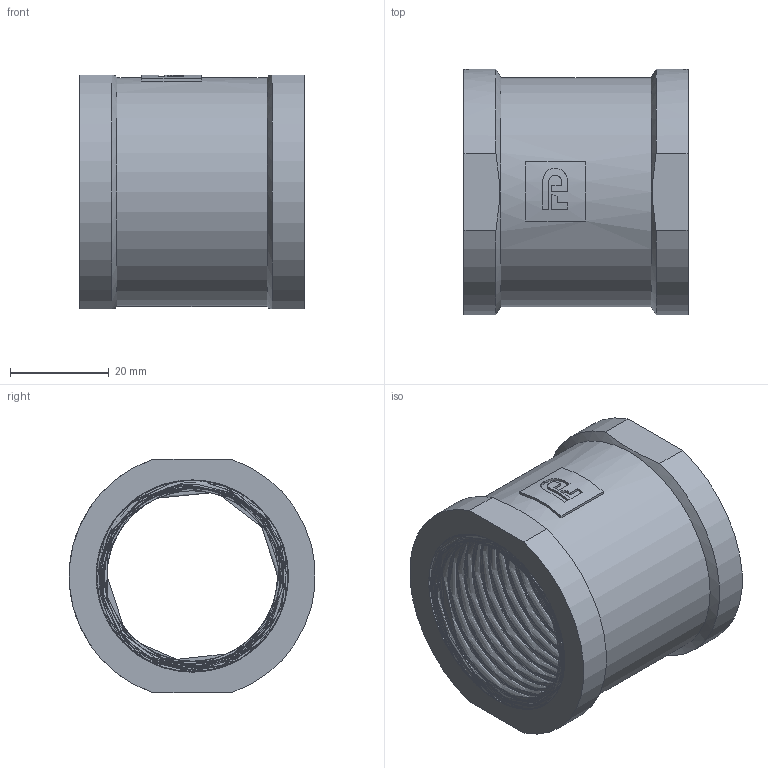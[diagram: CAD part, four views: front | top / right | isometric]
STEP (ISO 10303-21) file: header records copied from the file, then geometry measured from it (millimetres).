
FILE_DESCRIPTION(/* description */ (''),/* implementation_level */ '2;1');
FILE_NAME(/* name */ 'C:\Users\Doom\Desktop\Фадотех\Резьба\M04 17.03.2020\M04 17.03.2020.stp',/* time_stamp */ '2021-12-24T00:36:39+02:00',/* author */ ('Doom'),/* organization */ (''),/* preprocessor_version */ 'ST-DEVELOPER v18',/* originating_system */ 'Autodesk Inventor 2020',/* authorisation */ '');
FILE_SCHEMA (('AUTOMOTIVE_DESIGN { 1 0 10303 214 3 1 1 }'));
Length unit declared in the file: millimetre
Products named in the file (1): M04 17.03.2020
Bounding box: 45.5 x 49.91 x 47.5 mm (x, y, z)
Volume: 37028.2 mm3; surface area: 30840.1 mm2
Topology: 2 solids, 2 shells, 73 faces, 198 edges, 130 vertices
Faces by surface type: cylinder 35, plane 26, bspline 10, cone 2
Full cylindrical faces by diameter (mm): 35.576 x23, 39 x2, 46.5 x1
Entity records: 12511 total; most frequent: CARTESIAN_POINT 10772, ORIENTED_EDGE 388, DIRECTION 297, EDGE_CURVE 194, VERTEX_POINT 128, AXIS2_PLACEMENT_3D 110, EDGE_LOOP 80, LINE 77
